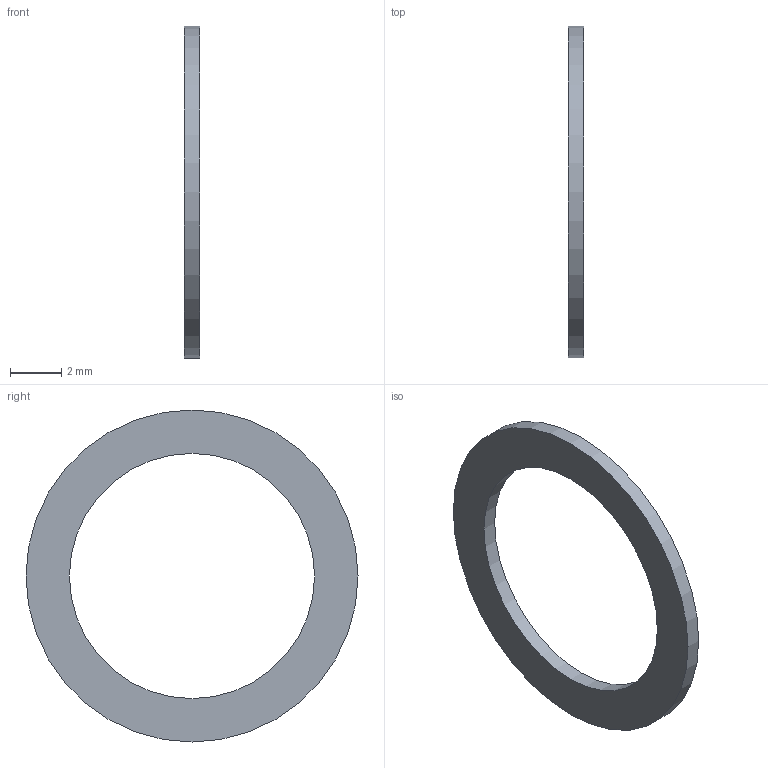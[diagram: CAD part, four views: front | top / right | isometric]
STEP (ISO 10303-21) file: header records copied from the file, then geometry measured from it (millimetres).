
FILE_DESCRIPTION(('Open CASCADE Model'),'2;1');
FILE_NAME('Open CASCADE Shape Model','2026-09-09T10:24:07',('Author'),( 'Open CASCADE'),'Open CASCADE STEP processor 7.8','Open CASCADE 7.8' ,'Unknown');
FILE_SCHEMA(('AUTOMOTIVE_DESIGN { 1 0 10303 214 1 1 1 1 }'));
Length unit declared in the file: millimetre
Products named in the file (1): Open CASCADE STEP translator 7.8 19
Bounding box: 0.59 x 13 x 13 mm (x, y, z)
Volume: 35.7 mm3; surface area: 162.7 mm2
Topology: 1 solids, 1 shells, 4 faces, 6 edges, 4 vertices
Faces by surface type: cylinder 2, plane 2
Full cylindrical faces by diameter (mm): 9.6 x1, 13 x1
Entity records: 186 total; most frequent: DIRECTION 32, CARTESIAN_POINT 27, ORIENTED_EDGE 12, PCURVE 12, DEFINITIONAL_REPRESENTATION 12, LINE 10, VECTOR 10, AXIS2_PLACEMENT_3D 9
